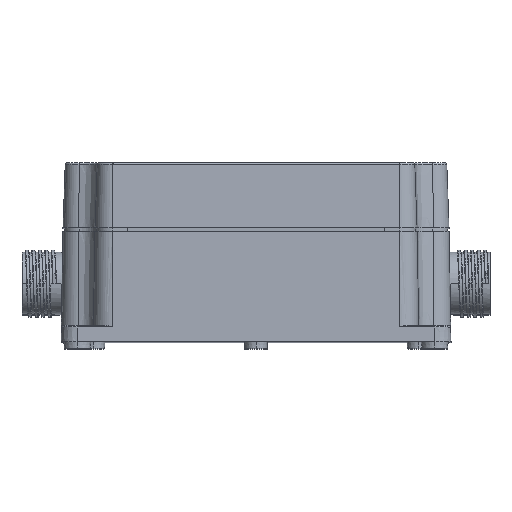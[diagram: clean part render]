
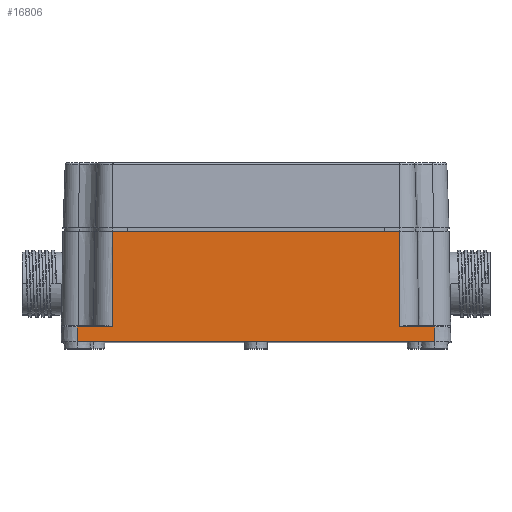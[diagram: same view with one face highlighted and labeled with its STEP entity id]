
A CAD part, top view. The second image highlights one B-rep face of the part: STEP entity #16806.
In plain terms, the highlighted planar face has unit normal (0, 0.018, 1).
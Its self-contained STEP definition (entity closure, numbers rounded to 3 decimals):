
#974 = LINE ( 'NONE', #1500, #32039 ) ;
#1052 = VECTOR ( 'NONE', #17557, 1000. ) ;
#1500 = CARTESIAN_POINT ( 'NONE',  ( 44.158, 0., 85. ) ) ;
#2263 = CARTESIAN_POINT ( 'NONE',  ( 55., 0., 85. ) ) ;
#2636 = EDGE_CURVE ( 'NONE', #31589, #22493, #27335, .T. ) ;
#3745 = DIRECTION ( 'NONE',  ( 0., 0.017, 1. ) ) ;
#4653 = LINE ( 'NONE', #24505, #7009 ) ;
#5502 = CARTESIAN_POINT ( 'NONE',  ( -55., 0., 85. ) ) ;
#5676 = CARTESIAN_POINT ( 'NONE',  ( 44.158, 4.509, 84.921 ) ) ;
#6308 = DIRECTION ( 'NONE',  ( 0., 1., -0.017 ) ) ;
#6349 = DIRECTION ( 'NONE',  ( 0., -1., 0.017 ) ) ;
#7009 = VECTOR ( 'NONE', #32454, 1000. ) ;
#7521 = ORIENTED_EDGE ( 'NONE', *, *, #8441, .T. ) ;
#7753 = ORIENTED_EDGE ( 'NONE', *, *, #9207, .T. ) ;
#8141 = ORIENTED_EDGE ( 'NONE', *, *, #26579, .T. ) ;
#8441 = EDGE_CURVE ( 'NONE', #11666, #26761, #19311, .T. ) ;
#8721 = LINE ( 'NONE', #17191, #1052 ) ;
#9207 = EDGE_CURVE ( 'NONE', #20650, #17573, #4653, .T. ) ;
#9827 = CARTESIAN_POINT ( 'NONE',  ( -55., 0., 85. ) ) ;
#10524 = ORIENTED_EDGE ( 'NONE', *, *, #25195, .F. ) ;
#10562 = VECTOR ( 'NONE', #16798, 1000. ) ;
#10822 = ORIENTED_EDGE ( 'NONE', *, *, #32898, .T. ) ;
#10881 = CARTESIAN_POINT ( 'NONE',  ( -44.158, 4.509, 84.921 ) ) ;
#11666 = VERTEX_POINT ( 'NONE', #32500 ) ;
#12594 = LINE ( 'NONE', #9827, #14647 ) ;
#13281 = ORIENTED_EDGE ( 'NONE', *, *, #15269, .T. ) ;
#13361 = DIRECTION ( 'NONE',  ( -1., 0., 0. ) ) ;
#13683 = LINE ( 'NONE', #33914, #10562 ) ;
#14647 = VECTOR ( 'NONE', #6349, 1000. ) ;
#15269 = EDGE_CURVE ( 'NONE', #22493, #19965, #974, .T. ) ;
#15338 = LINE ( 'NONE', #33999, #22839 ) ;
#16798 = DIRECTION ( 'NONE',  ( -1., 0., 0. ) ) ;
#16806 = ADVANCED_FACE ( 'NONE', ( #23773 ), #18075, .T. ) ;
#17191 = CARTESIAN_POINT ( 'NONE',  ( 55., 0., 85. ) ) ;
#17557 = DIRECTION ( 'NONE',  ( 0., -1., 0.017 ) ) ;
#17573 = VERTEX_POINT ( 'NONE', #29624 ) ;
#18075 = PLANE ( 'NONE',  #22721 ) ;
#19094 = VECTOR ( 'NONE', #13361, 1000. ) ;
#19311 = LINE ( 'NONE', #5502, #35209 ) ;
#19662 = DIRECTION ( 'NONE',  ( 1., 0., 0. ) ) ;
#19965 = VERTEX_POINT ( 'NONE', #29707 ) ;
#20650 = VERTEX_POINT ( 'NONE', #10881 ) ;
#21778 = ORIENTED_EDGE ( 'NONE', *, *, #33175, .T. ) ;
#22493 = VERTEX_POINT ( 'NONE', #5676 ) ;
#22721 = AXIS2_PLACEMENT_3D ( 'NONE', #26540, #3745, #29130 ) ;
#22839 = VECTOR ( 'NONE', #23786, 1000. ) ;
#23773 = FACE_OUTER_BOUND ( 'NONE', #25468, .T. ) ;
#23786 = DIRECTION ( 'NONE',  ( 0., -1., 0.017 ) ) ;
#24505 = CARTESIAN_POINT ( 'NONE',  ( -55., 4.509, 84.921 ) ) ;
#24804 = VERTEX_POINT ( 'NONE', #25724 ) ;
#25195 = EDGE_CURVE ( 'NONE', #31589, #26761, #8721, .T. ) ;
#25468 = EDGE_LOOP ( 'NONE', ( #7521, #10524, #36108, #13281, #21778, #8141, #7753, #10822 ) ) ;
#25724 = CARTESIAN_POINT ( 'NONE',  ( -44.158, 34., 84.407 ) ) ;
#26540 = CARTESIAN_POINT ( 'NONE',  ( -55., 0., 85. ) ) ;
#26579 = EDGE_CURVE ( 'NONE', #24804, #20650, #15338, .T. ) ;
#26761 = VERTEX_POINT ( 'NONE', #2263 ) ;
#27335 = LINE ( 'NONE', #35627, #19094 ) ;
#29130 = DIRECTION ( 'NONE',  ( 0., -1., 0.017 ) ) ;
#29624 = CARTESIAN_POINT ( 'NONE',  ( -55., 4.509, 84.921 ) ) ;
#29707 = CARTESIAN_POINT ( 'NONE',  ( 44.158, 34., 84.407 ) ) ;
#30471 = CARTESIAN_POINT ( 'NONE',  ( 55., 4.509, 84.921 ) ) ;
#31589 = VERTEX_POINT ( 'NONE', #30471 ) ;
#32039 = VECTOR ( 'NONE', #6308, 1000. ) ;
#32454 = DIRECTION ( 'NONE',  ( -1., 0., 0. ) ) ;
#32500 = CARTESIAN_POINT ( 'NONE',  ( -55., 0., 85. ) ) ;
#32898 = EDGE_CURVE ( 'NONE', #17573, #11666, #12594, .T. ) ;
#33175 = EDGE_CURVE ( 'NONE', #19965, #24804, #13683, .T. ) ;
#33914 = CARTESIAN_POINT ( 'NONE',  ( -55., 34., 84.407 ) ) ;
#33999 = CARTESIAN_POINT ( 'NONE',  ( -44.158, 0., 85. ) ) ;
#35209 = VECTOR ( 'NONE', #19662, 1000. ) ;
#35627 = CARTESIAN_POINT ( 'NONE',  ( -55., 4.509, 84.921 ) ) ;
#36108 = ORIENTED_EDGE ( 'NONE', *, *, #2636, .T. ) ;
